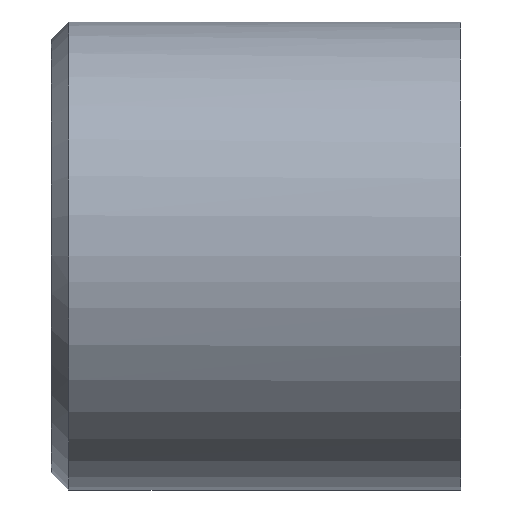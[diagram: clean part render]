
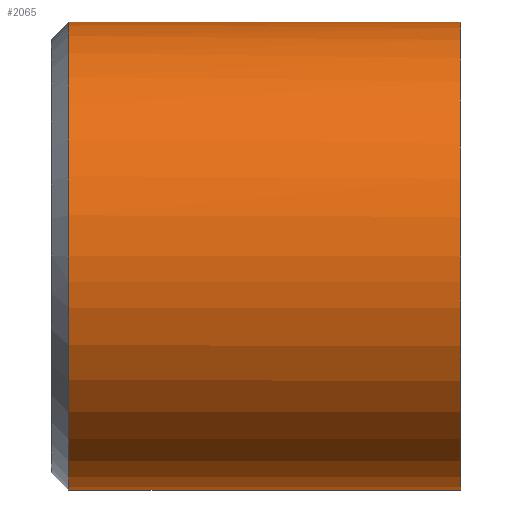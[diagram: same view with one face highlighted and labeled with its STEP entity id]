
A CAD part, front view. The second image highlights one B-rep face of the part: STEP entity #2065.
In plain terms, the highlighted cylindrical face has radius 8 mm (diameter 16 mm), a partial arc.
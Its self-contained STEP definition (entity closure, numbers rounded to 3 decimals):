
#124=CARTESIAN_POINT('Vertex',(0.,0.,-8.)) ;
#130=CARTESIAN_POINT('Control Point',(0.,-8.,0.)) ;
#131=CARTESIAN_POINT('Control Point',(0.,-8.,-0.831)) ;
#132=CARTESIAN_POINT('Control Point',(0.,-7.892,-1.663)) ;
#133=CARTESIAN_POINT('Control Point',(0.,-7.676,-2.475)) ;
#134=CARTESIAN_POINT('Control Point',(0.,-7.038,-4.026)) ;
#135=CARTESIAN_POINT('Control Point',(0.,-6.025,-5.362)) ;
#136=CARTESIAN_POINT('Control Point',(0.,-5.434,-5.96)) ;
#137=CARTESIAN_POINT('Control Point',(0.,-4.11,-6.989)) ;
#138=CARTESIAN_POINT('Control Point',(0.,-2.567,-7.646)) ;
#139=CARTESIAN_POINT('Control Point',(0.,-1.757,-7.872)) ;
#140=CARTESIAN_POINT('Control Point',(0.,-0.908,-7.992)) ;
#141=CARTESIAN_POINT('Control Point',(0.,-0.057,-8.)) ;
#142=CARTESIAN_POINT('Control Point',(0.,-0.038,-8.)) ;
#143=CARTESIAN_POINT('Control Point',(0.,-0.019,-8.)) ;
#144=CARTESIAN_POINT('Control Point',(0.,0.,-8.)) ;
#145=CARTESIAN_POINT('Vertex',(0.,-8.,0.)) ;
#149=CARTESIAN_POINT('Control Point',(0.,0.,8.)) ;
#150=CARTESIAN_POINT('Control Point',(0.,-0.812,8.)) ;
#151=CARTESIAN_POINT('Control Point',(0.,-1.625,7.897)) ;
#152=CARTESIAN_POINT('Control Point',(0.,-2.419,7.691)) ;
#153=CARTESIAN_POINT('Control Point',(0.,-3.957,7.074)) ;
#154=CARTESIAN_POINT('Control Point',(0.,-5.29,6.088)) ;
#155=CARTESIAN_POINT('Control Point',(0.,-5.895,5.504)) ;
#156=CARTESIAN_POINT('Control Point',(0.,-6.94,4.193)) ;
#157=CARTESIAN_POINT('Control Point',(0.,-7.615,2.658)) ;
#158=CARTESIAN_POINT('Control Point',(0.,-7.85,1.851)) ;
#159=CARTESIAN_POINT('Control Point',(0.,-7.984,0.984)) ;
#160=CARTESIAN_POINT('Control Point',(0.,-7.999,0.115)) ;
#161=CARTESIAN_POINT('Control Point',(0.,-8.,0.076)) ;
#162=CARTESIAN_POINT('Control Point',(0.,-8.,0.038)) ;
#163=CARTESIAN_POINT('Control Point',(0.,-8.,0.)) ;
#164=CARTESIAN_POINT('Vertex',(0.,0.,8.)) ;
#1999=CARTESIAN_POINT('Line Origine',(14.,0.,8.)) ;
#2003=CARTESIAN_POINT('Vertex',(13.4,0.,8.)) ;
#2020=CARTESIAN_POINT('Vertex',(13.4,0.,-8.)) ;
#2023=CARTESIAN_POINT('Line Origine',(14.,0.,-8.)) ;
#2037=CARTESIAN_POINT('Axis2P3D Location',(14.,0.,0.)) ;
#2042=CARTESIAN_POINT('Axis2P3D Location',(13.4,0.,0.)) ;
#2046=CARTESIAN_POINT('Vertex',(13.4,-8.,0.)) ;
#2050=CARTESIAN_POINT('Control Point',(13.4,0.,8.)) ;
#2051=CARTESIAN_POINT('Control Point',(13.4,-2.513,8.)) ;
#2052=CARTESIAN_POINT('Control Point',(13.4,-5.029,7.016)) ;
#2053=CARTESIAN_POINT('Control Point',(13.4,-7.016,5.029)) ;
#2054=CARTESIAN_POINT('Control Point',(13.4,-8.,2.513)) ;
#2055=CARTESIAN_POINT('Control Point',(13.4,-8.,0.)) ;
#2000=DIRECTION('Vector Direction',(-1.,0.,0.)) ;
#2024=DIRECTION('Vector Direction',(-1.,0.,0.)) ;
#2038=DIRECTION('Axis2P3D Direction',(-1.,-0.,-0.)) ;
#2039=DIRECTION('Axis2P3D XDirection',(0.,0.,-1.)) ;
#2043=DIRECTION('Axis2P3D Direction',(-1.,-0.,-0.)) ;
#2040=AXIS2_PLACEMENT_3D('Cylinder Axis2P3D',#2037,#2038,#2039) ;
#2044=AXIS2_PLACEMENT_3D('Circle Axis2P3D',#2042,#2043,$) ;
#2058=ORIENTED_EDGE('',*,*,#2027,.T.) ;
#2059=ORIENTED_EDGE('',*,*,#2048,.F.) ;
#2060=ORIENTED_EDGE('',*,*,#2056,.F.) ;
#2061=ORIENTED_EDGE('',*,*,#2005,.T.) ;
#2062=ORIENTED_EDGE('',*,*,#166,.T.) ;
#2063=ORIENTED_EDGE('',*,*,#147,.T.) ;
#2001=VECTOR('Line Direction',#2000,1.) ;
#2025=VECTOR('Line Direction',#2024,1.) ;
#2065=ADVANCED_FACE('D375-16-A-DM-FA',(#2064),#2041,.T.) ;
#129=B_SPLINE_CURVE_WITH_KNOTS('',5,(#130,#131,#132,#133,#134,#135,#136,#137,#138,#139,#140,#141,#142,#143,#144),.UNSPECIFIED.,.F.,.U.,(6,3,3,3,6),(0.,5.879,11.757,17.636,17.771),.UNSPECIFIED.) ;
#148=B_SPLINE_CURVE_WITH_KNOTS('',5,(#149,#150,#151,#152,#153,#154,#155,#156,#157,#158,#159,#160,#161,#162,#163),.UNSPECIFIED.,.F.,.U.,(6,3,3,3,6),(17.771,23.515,29.393,35.272,35.543),.UNSPECIFIED.) ;
#2049=B_SPLINE_CURVE_WITH_KNOTS('',5,(#2050,#2051,#2052,#2053,#2054,#2055),.UNSPECIFIED.,.F.,.U.,(6,6),(-6.283,6.283),.UNSPECIFIED.) ;
#2045=CIRCLE('generated circle',#2044,8.) ;
#2041=CYLINDRICAL_SURFACE('generated cylinder',#2040,8.) ;
#147=EDGE_CURVE('',#146,#125,#129,.T.) ;
#166=EDGE_CURVE('',#165,#146,#148,.T.) ;
#2005=EDGE_CURVE('',#2004,#165,#2002,.T.) ;
#2027=EDGE_CURVE('',#125,#2021,#2026,.F.) ;
#2048=EDGE_CURVE('',#2047,#2021,#2045,.F.) ;
#2056=EDGE_CURVE('',#2004,#2047,#2049,.T.) ;
#2057=EDGE_LOOP('',(#2058,#2059,#2060,#2061,#2062,#2063)) ;
#2064=FACE_OUTER_BOUND('',#2057,.T.) ;
#2002=LINE('Line',#1999,#2001) ;
#2026=LINE('Line',#2023,#2025) ;
#125=VERTEX_POINT('',#124) ;
#146=VERTEX_POINT('',#145) ;
#165=VERTEX_POINT('',#164) ;
#2004=VERTEX_POINT('',#2003) ;
#2021=VERTEX_POINT('',#2020) ;
#2047=VERTEX_POINT('',#2046) ;
